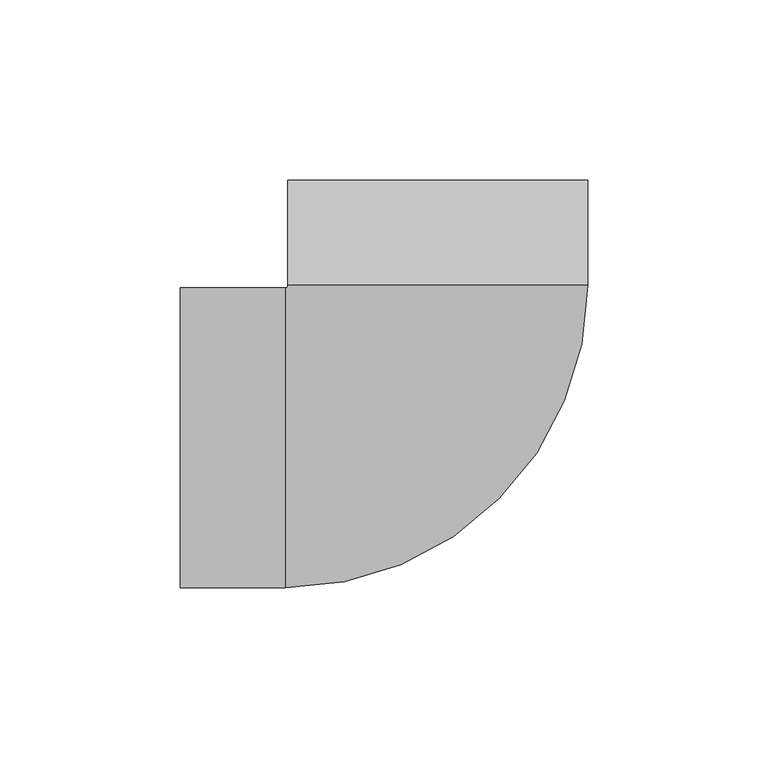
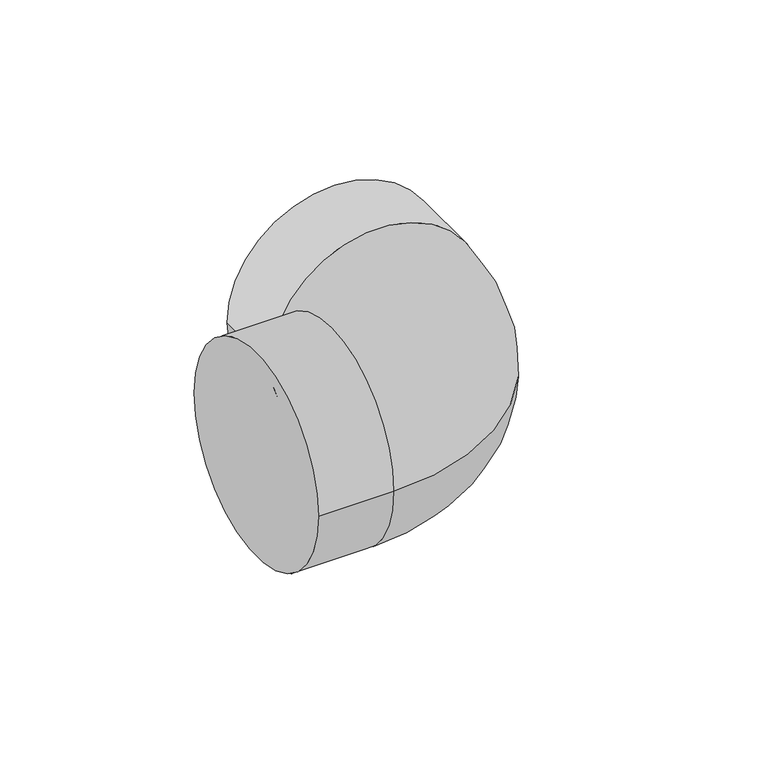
"""IFC4 building model written with IfcOpenShell, lengths in millimetres: pipe fitting geometry, NIRON RED termofusion codo : Estándar."""

from ifc_helpers import new_model, si_unit, point, frame, origin, place, context, project, spatial, circle_curve, ellipse_curve, trimmed, source, transform, mapped, element, save
from ifc_brep_helpers import plane_surface, cylinder_surface, revolved_surface, advanced_brep


def pipe_fitting_f8956013(model_context):
    return source(origin(), model_context, "Body", "AdvancedBrep", [
        advanced_brep(
        [(-71.29375, -41.5, 0.0), (-71.29375, 41.5, 0.0), (-42.29375, -41.5, 0.0), (-42.29375, 41.5, 0.0), (-41.5, 42.29375, 0.0), (41.5, 42.29375, 0.0), (0.0, 42.29375, 41.5), (0.0, 42.29375, -41.5), (41.5, 71.29375, 0.0), (-41.5, 71.29375, 0.0)],
        [
            (0, 1, circle_curve(frame((-71.29375, 0.0, 0.0), z_axis=(-1.0, 0.0, 0.0), x_axis=(0.0, 1.0, 0.0)), 41.5)),
            (1, 0, circle_curve(frame((-71.29375, 0.0, 0.0), z_axis=(-1.0, 0.0, 0.0), x_axis=(0.0, 1.0, 0.0)), 41.5)),
            (0, 2),
            (2, 3, circle_curve(frame((-42.29375, 0.0, 0.0), z_axis=(-1.0, 0.0, 0.0), x_axis=(0.0, 1.0, 0.0)), 41.5)),
            (3, 1),
            (3, 2, circle_curve(frame((-42.29375, 0.0, 0.0), z_axis=(-1.0, 0.0, 0.0), x_axis=(0.0, 1.0, 0.0)), 41.5)),
            (4, 3, circle_curve(frame((-42.29375, 42.29375, 0.0), z_axis=(0.0, 0.0, -1.0), x_axis=(0.0, -1.0, 0.0)), 0.79375)),
            (2, 5, circle_curve(frame((-42.29375, 42.29375, 0.0), z_axis=(0.0, 0.0, 1.0), x_axis=(0.0, -1.0, 0.0)), 83.79375)),
            (5, 6, circle_curve(frame((0.0, 42.29375, 0.0), z_axis=(0.0, -1.0, 0.0), x_axis=(-1.0, 0.0, 0.0)), 41.5)),
            (6, 4, circle_curve(frame((0.0, 42.29375, 0.0), z_axis=(0.0, -1.0, 0.0), x_axis=(-1.0, 0.0, 0.0)), 41.5)),
            (4, 7, circle_curve(frame((0.0, 42.29375, 0.0), z_axis=(0.0, -1.0, 0.0), x_axis=(-1.0, 0.0, 0.0)), 41.5)),
            (7, 5, circle_curve(frame((0.0, 42.29375, 0.0), z_axis=(0.0, -1.0, 0.0), x_axis=(-1.0, 0.0, 0.0)), 41.5)),
            (8, 9, circle_curve(frame((0.0, 71.29375, 0.0), z_axis=(0.0, 1.0, 0.0), x_axis=(-1.0, 0.0, 0.0)), 41.5)),
            (9, 8, circle_curve(frame((0.0, 71.29375, 0.0), z_axis=(0.0, 1.0, 0.0), x_axis=(-1.0, 0.0, 0.0)), 41.5)),
            (9, 4),
            (5, 8),
        ],
        [
            plane_surface(frame((-71.29375, 0.0, 0.0), z_axis=(-1.0, 0.0, 0.0), x_axis=(0.0, 0.0, 1.0))),
            cylinder_surface(frame((-71.29375, 0.0, 0.0), z_axis=(-1.0, 0.0, 0.0), x_axis=(0.0, 1.0, 0.0)), 41.5),
            revolved_surface(trimmed(ellipse_curve(frame((-42.29375, 0.0, 0.0), z_axis=(-1.0, 0.0, 0.0), x_axis=(0.0, 1.0, 0.0)), 41.5, 41.5), [point((-42.29375, -41.5, 0.0))], [point((-42.29375, 41.5, 0.0))], True, "CARTESIAN"), (-42.29375, 42.29375, 0.0), (0.0, 0.0, 1.0)),
            revolved_surface(trimmed(ellipse_curve(frame((-42.29375, 0.0, 0.0), z_axis=(-1.0, 0.0, 0.0), x_axis=(0.0, 1.0, 0.0)), 41.5, 41.5), [point((-42.29375, 41.5, 0.0))], [point((-42.29375, -41.5, 0.0))], True, "CARTESIAN"), (-42.29375, 42.29375, 0.0), (0.0, 0.0, 1.0)),
            plane_surface(frame((0.0, 71.29375, 0.0), z_axis=(0.0, 1.0, 0.0), x_axis=(0.0, 0.0, 1.0))),
            cylinder_surface(frame((0.0, 42.29375, 0.0), z_axis=(0.0, -1.0, 0.0), x_axis=(-1.0, 0.0, 0.0)), 41.5),
        ],
        [
            (0, [[1, 2]]),
            (1, [[-1, 3, 4, 5]]),
            (1, [[-2, -5, 6, -3]]),
            (2, [[7, -4, 8, 9, 10]]),
            (3, [[-7, 11, 12, -8, -6]]),
            (4, [[13, 14]]),
            (5, [[-14, 15, -10, -9, 16]]),
            (5, [[-13, -16, -12, -11, -15]]),
        ],
    ),
    ])


if __name__ == "__main__":
    model = new_model("IFC4")
    model_context = context("Model", 3, world=origin())
    ifc_project = project(units=[si_unit("LENGTHUNIT", "METRE", prefix="MILLI")], contexts=[model_context])
    site = spatial("IfcSite", under=ifc_project)
    building = spatial("IfcBuilding", under=site)
    placement = place(None, origin())
    pipe_fitting_shape = pipe_fitting_f8956013(model_context)
    element("IfcPipeFitting", 1, ObjectType="NIRON RED termofusion codo : Estándar", at=placement, inside=building, context=model_context, shape_type="MappedRepresentation", body=[
        mapped(pipe_fitting_shape, transform((0.0, 0.0, 0.0), x_axis=(1.0, 0.0, 0.0), y_axis=(0.0, 1.0, 0.0), z_axis=(0.0, 0.0, 1.0))),
    ])
    save(model, "model.ifc")
